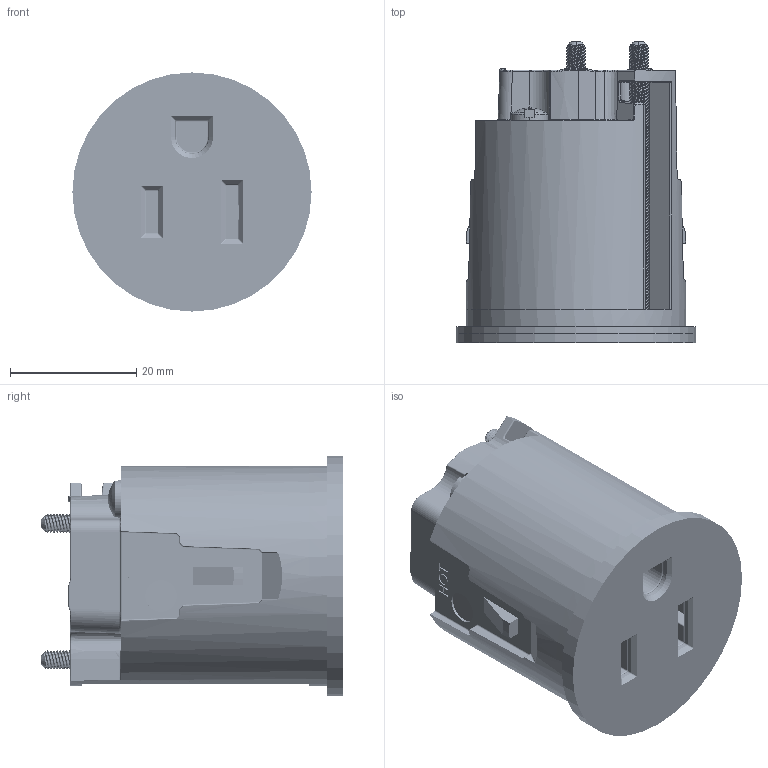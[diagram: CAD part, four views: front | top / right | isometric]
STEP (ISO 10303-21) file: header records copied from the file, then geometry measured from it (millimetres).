
FILE_DESCRIPTION((''),'2;1');
FILE_NAME('A1440657_ASM','2025-08-22T11:32:28',('FDR'),(''),'CREO PARAMETRIC BY PTC INC, 2023494','CREO PARAMETRIC BY PTC INC, 2023494','');
FILE_SCHEMA(('AP242_MANAGED_MODEL_BASED_3D_ENGINEERING_MIM_LF { 1 0 10303 442 1 1 4 }'));
Products named in the file (5): A1493663; A1400703; A1440662; A1413233; A1440657_ASM
Assembly tree (6 placements, depth 2):
  A1440657_ASM
    A1493663
    A1400703  x2
    A1440662
    A1413233  x2
Bounding box: 37.9 x 47.8 x 37.9 mm (x, y, z)
Volume: 32130.8 mm3; surface area: 13857.3 mm2
Topology: 7 solids, 13 shells, 2737 faces, 9317 edges, 6837 vertices
Faces by surface type: plane 804, cylinder 795, bspline 356, extrusion 331, cone 250, torus 132, sphere 69
Entity records: 152036 total; most frequent: CARTESIAN_POINT 51162, ORIENTED_EDGE 11156, PRESENTATION_STYLE_ASSIGNMENT 10185, DIRECTION 10118, STYLED_ITEM 8098, CURVE_STYLE 8083, EDGE_CURVE 5589, VECTOR 4260
